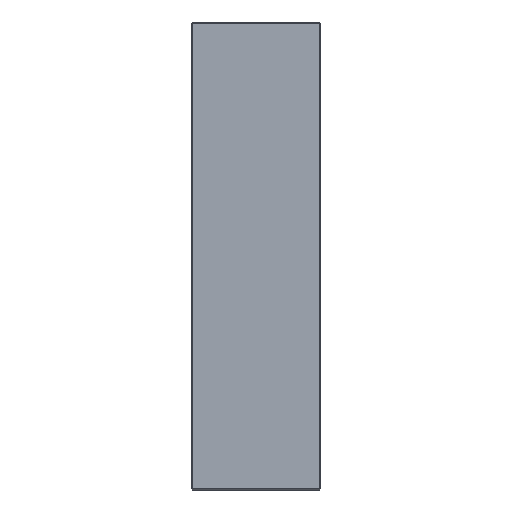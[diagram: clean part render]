
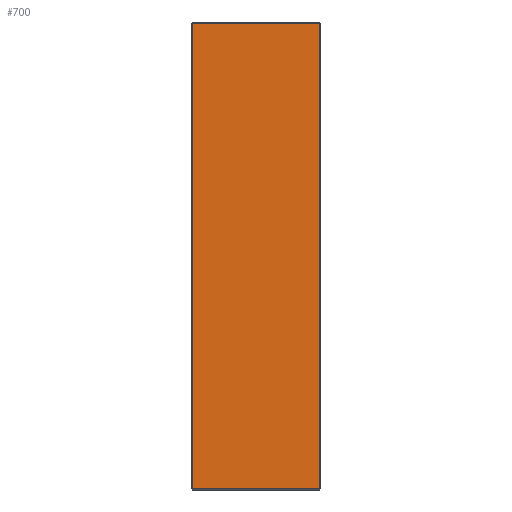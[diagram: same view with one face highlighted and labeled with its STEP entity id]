
A CAD part, left-side view. The second image highlights one B-rep face of the part: STEP entity #700.
In plain terms, the highlighted planar face has unit normal (-1, 0, 0).
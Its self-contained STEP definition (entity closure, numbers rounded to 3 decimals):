
#31 = DIRECTION ( 'NONE',  ( 0., -1., 0. ) ) ;
#238 = LINE ( 'NONE', #1799, #1244 ) ;
#365 = ORIENTED_EDGE ( 'NONE', *, *, #1476, .T. ) ;
#584 = ORIENTED_EDGE ( 'NONE', *, *, #1232, .T. ) ;
#609 = CARTESIAN_POINT ( 'NONE',  ( -173., 96., 173. ) ) ;
#647 = VERTEX_POINT ( 'NONE', #1013 ) ;
#700 = ADVANCED_FACE ( 'NONE', ( #1516 ), #1439, .F. ) ;
#716 = EDGE_LOOP ( 'NONE', ( #365, #584, #1505, #1390 ) ) ;
#812 = VECTOR ( 'NONE', #31, 1000. ) ;
#877 = LINE ( 'NONE', #2217, #2438 ) ;
#1013 = CARTESIAN_POINT ( 'NONE',  ( -173., 95., 172. ) ) ;
#1036 = CARTESIAN_POINT ( 'NONE',  ( -173., 95., -172. ) ) ;
#1159 = AXIS2_PLACEMENT_3D ( 'NONE', #609, #2554, #1273 ) ;
#1174 = EDGE_CURVE ( 'NONE', #2052, #2315, #877, .T. ) ;
#1232 = EDGE_CURVE ( 'NONE', #647, #2457, #238, .T. ) ;
#1244 = VECTOR ( 'NONE', #2024, 1000. ) ;
#1260 = DIRECTION ( 'NONE',  ( 0., 1., 0. ) ) ;
#1273 = DIRECTION ( 'NONE',  ( 0., 0., -1. ) ) ;
#1289 = LINE ( 'NONE', #2587, #812 ) ;
#1367 = DIRECTION ( 'NONE',  ( 0., 0., 1. ) ) ;
#1390 = ORIENTED_EDGE ( 'NONE', *, *, #1174, .T. ) ;
#1439 = PLANE ( 'NONE',  #1159 ) ;
#1442 = VECTOR ( 'NONE', #1260, 1000. ) ;
#1476 = EDGE_CURVE ( 'NONE', #2315, #647, #2012, .T. ) ;
#1505 = ORIENTED_EDGE ( 'NONE', *, *, #2657, .T. ) ;
#1516 = FACE_OUTER_BOUND ( 'NONE', #716, .T. ) ;
#1799 = CARTESIAN_POINT ( 'NONE',  ( -173., 95., 173. ) ) ;
#2012 = LINE ( 'NONE', #2745, #1442 ) ;
#2024 = DIRECTION ( 'NONE',  ( 0., 0., -1. ) ) ;
#2052 = VERTEX_POINT ( 'NONE', #2247 ) ;
#2217 = CARTESIAN_POINT ( 'NONE',  ( -173., 1., 173. ) ) ;
#2247 = CARTESIAN_POINT ( 'NONE',  ( -173., 1., -172. ) ) ;
#2252 = CARTESIAN_POINT ( 'NONE',  ( -173., 1., 172. ) ) ;
#2315 = VERTEX_POINT ( 'NONE', #2252 ) ;
#2438 = VECTOR ( 'NONE', #1367, 1000. ) ;
#2457 = VERTEX_POINT ( 'NONE', #1036 ) ;
#2554 = DIRECTION ( 'NONE',  ( 1., 0., 0. ) ) ;
#2587 = CARTESIAN_POINT ( 'NONE',  ( -173., 96., -172. ) ) ;
#2657 = EDGE_CURVE ( 'NONE', #2457, #2052, #1289, .T. ) ;
#2745 = CARTESIAN_POINT ( 'NONE',  ( -173., 96., 172. ) ) ;
